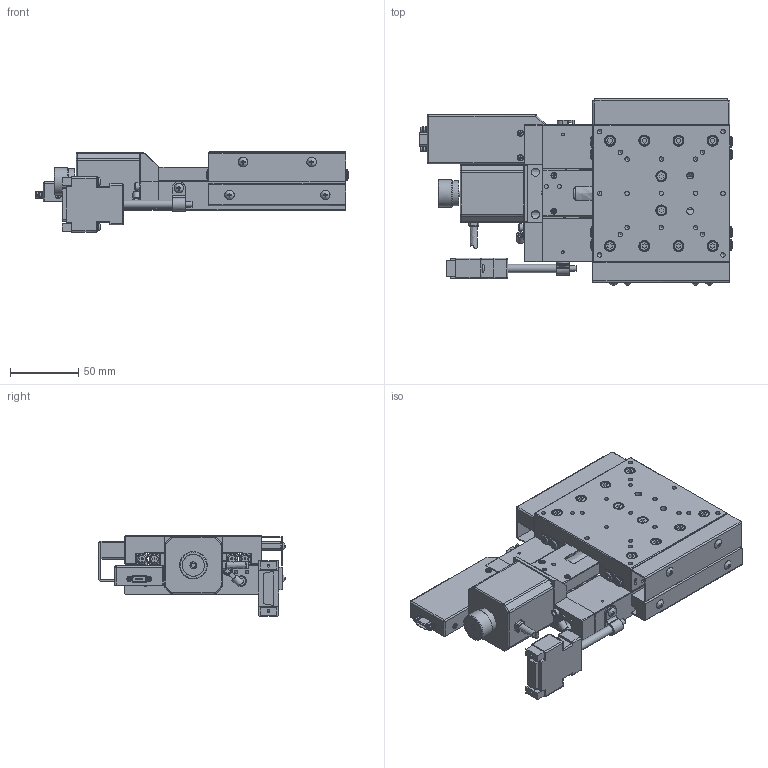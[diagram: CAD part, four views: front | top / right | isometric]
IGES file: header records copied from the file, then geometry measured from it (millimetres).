
Global section: file name: TAMM(GS)100-50C_IGS; native system: Autodesk Inventor 2023; preprocessor: unknown; author: h.deguchi; date: 20260310.134715; units: millimetre
Bounding box: 228.7 x 135.96 x 58.65 mm (x, y, z)
Volume: 591102.5 mm3; surface area: 186207.1 mm2
Topology: 3 solids, 3 shells, 2516 faces, 6785 edges, 4451 vertices
Faces by surface type: bspline 2516
